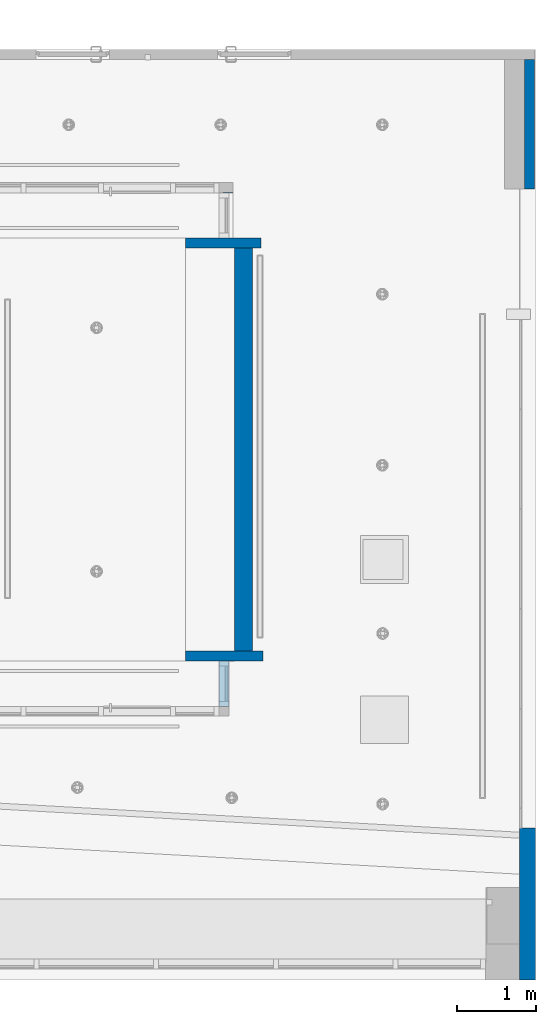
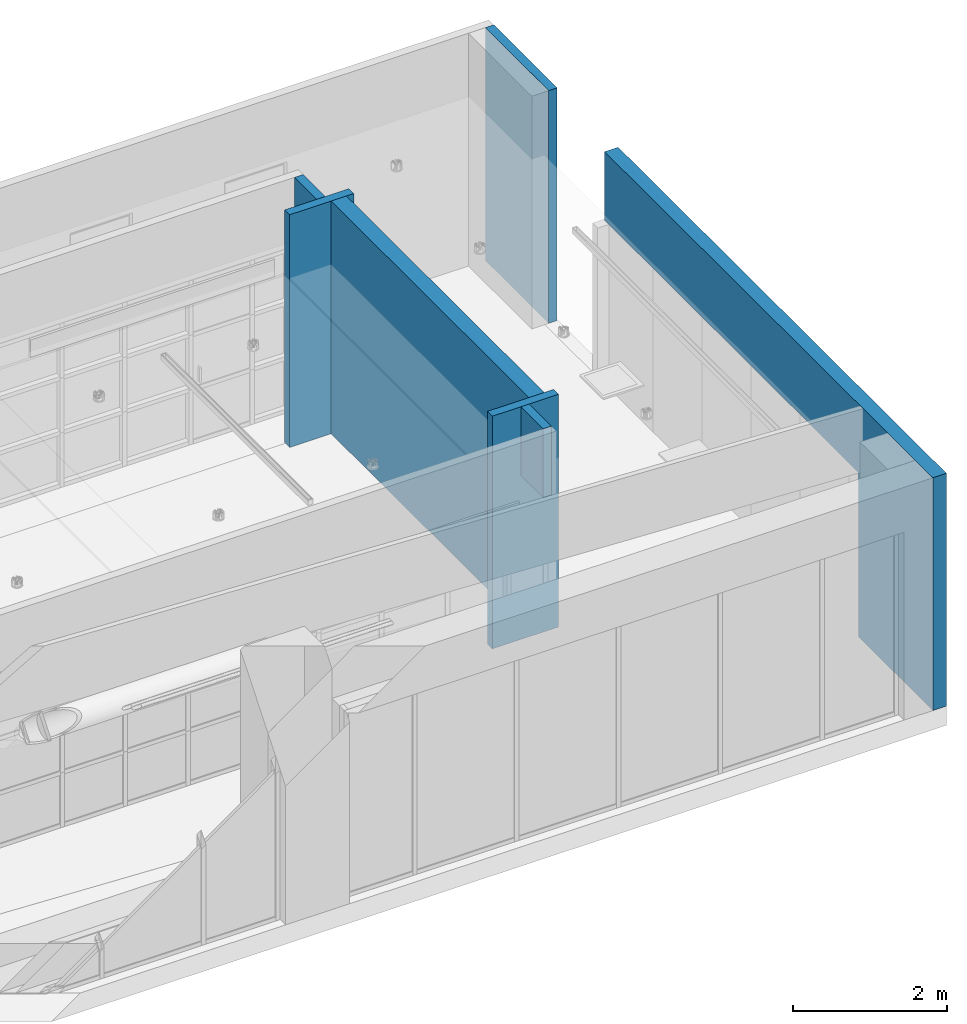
# One storey, part 20 of 108: 7 walls, 3 openings.
"""IFC4 building model written with IfcOpenShell, lengths in feet."""

from ifc_helpers import new_model, entity, si_unit, converted_unit, derived_unit, direction, frame, frame_2d, origin, place, context, subcontext, project, spatial, rectangle, extrude, material, layer, layer_set, layer_usage, type_object, element, save


model = new_model("IFC4")

# Units and contexts
model_context = context("Model", 3, precision=0.0001, world=origin(), true_north=direction((6.12303176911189e-17, 1.0)))
body_context = subcontext(model_context, "Body", "Model", "MODEL_VIEW")
ifc_project = project(units=[converted_unit("LENGTHUNIT", "FOOT", entity("IfcRatioMeasure", 0.3048), si_unit("LENGTHUNIT", "METRE"), dimensions=[1, 0, 0, 0, 0, 0, 0]), converted_unit("AREAUNIT", "SQUARE FOOT", entity("IfcRatioMeasure", 0.09290304), si_unit("AREAUNIT", "SQUARE_METRE"), dimensions=[2, 0, 0, 0, 0, 0, 0]), converted_unit("VOLUMEUNIT", "CUBIC FOOT", entity("IfcRatioMeasure", 0.028316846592), si_unit("VOLUMEUNIT", "CUBIC_METRE"), dimensions=[3, 0, 0, 0, 0, 0, 0]), converted_unit("PLANEANGLEUNIT", "DEGREE", entity("IfcRatioMeasure", 0.0174532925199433), si_unit("PLANEANGLEUNIT", "RADIAN"), dimensions=[0, 0, 0, 0, 0, 0, 0]), si_unit("MASSUNIT", "GRAM", prefix="KILO"), derived_unit("MASSDENSITYUNIT", [(si_unit("MASSUNIT", "GRAM", prefix="KILO"), 1), (si_unit("LENGTHUNIT", "METRE"), -3)]), si_unit("TIMEUNIT", "SECOND"), si_unit("FREQUENCYUNIT", "HERTZ"), si_unit("THERMODYNAMICTEMPERATUREUNIT", "DEGREE_CELSIUS"), derived_unit("THERMALTRANSMITTANCEUNIT", [(si_unit("MASSUNIT", "GRAM", prefix="KILO"), 1), (si_unit("THERMODYNAMICTEMPERATUREUNIT", "KELVIN"), -1), (si_unit("TIMEUNIT", "SECOND"), -3)]), derived_unit("VOLUMETRICFLOWRATEUNIT", [(si_unit("LENGTHUNIT", "METRE"), 3), (si_unit("TIMEUNIT", "SECOND"), -1)]), si_unit("ELECTRICCURRENTUNIT", "AMPERE"), si_unit("ELECTRICVOLTAGEUNIT", "VOLT"), si_unit("POWERUNIT", "WATT"), si_unit("FORCEUNIT", "NEWTON"), si_unit("ILLUMINANCEUNIT", "LUX"), si_unit("LUMINOUSFLUXUNIT", "LUMEN"), si_unit("LUMINOUSINTENSITYUNIT", "CANDELA"), derived_unit("USERDEFINED", [(si_unit("MASSUNIT", "GRAM", prefix="KILO"), -1), (si_unit("LENGTHUNIT", "METRE"), -2), (si_unit("TIMEUNIT", "SECOND"), 3), (si_unit("LUMINOUSFLUXUNIT", "LUMEN"), 1)]), derived_unit("LINEARVELOCITYUNIT", [(si_unit("LENGTHUNIT", "METRE"), 1), (si_unit("TIMEUNIT", "SECOND"), -1)]), si_unit("PRESSUREUNIT", "PASCAL"), derived_unit("USERDEFINED", [(si_unit("LENGTHUNIT", "METRE"), -2), (si_unit("MASSUNIT", "GRAM", prefix="KILO"), 1), (si_unit("TIMEUNIT", "SECOND"), -2)])], contexts=[model_context])

# Site, building, storey
site_placement = place(None, origin())
site = spatial("IfcSite", under=ifc_project, at=site_placement, Name="Default", CompositionType="ELEMENT")
building_placement = place(site_placement, origin())
building = spatial("IfcBuilding", under=site, at=building_placement, CompositionType="ELEMENT")
storey_placement = place(building_placement, frame((0.0, 0.0, 168.0)))
storey = spatial("IfcBuildingStorey", under=building, at=storey_placement, Name="Level 15", CompositionType="ELEMENT", Elevation=168.0)

# Walls
ifc_material = material(Name="Default Wall", Category="Miscellaneous")
ifc_layer_1 = layer(ifc_material, 0.416666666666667, Name="Default Wall", Category="Miscellaneous")
ifc_layer_set_1 = layer_set([ifc_layer_1], Name="Basic Wall:Generic - 5\"")
ifc_layer_usage_1 = layer_usage(ifc_layer_set_1, "AXIS2", "POSITIVE", -0.208333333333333)
wall_type_1 = type_object("IfcWallType", Name="Basic Wall:Generic - 5\"", PredefinedType="NOTDEFINED", material=ifc_layer_set_1)
wall_1_placement = place(storey_placement, frame((61.6296210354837, 15.3174002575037, 0.0), z_axis=(0.0, 0.0, 1.0), x_axis=(0.0, -1.0, 0.0)))
element("IfcWall", 1, at=wall_1_placement, inside=storey, type_object=wall_type_1, material=ifc_layer_usage_1, Name="Basic Wall:Generic - 5\"", ObjectType="Basic Wall:Generic - 5\"", PredefinedType="NOTDEFINED", context=body_context, shape_type="SweptSolid", body=[
    extrude(rectangle(XDim=5.38888076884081, YDim=0.416666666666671, at=frame_2d((2.69444038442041, -1.38777878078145e-16), x_axis=(-1.0, 0.0))), origin(), (0.0, 0.0, 1.0), 12.0833333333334),
])
ifc_layer_usage_2 = layer_usage(ifc_layer_set_1, "AXIS2", "POSITIVE", -0.208333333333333)
wall_2_placement = place(storey_placement, frame((50.4302125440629, 7.67484776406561, 0.0), z_axis=(0.0, 0.0, 1.0), x_axis=(-1.0, 0.0, 0.0)))
element("IfcWall", 2, at=wall_2_placement, inside=storey, type_object=wall_type_1, material=ifc_layer_usage_2, Name="Basic Wall:Generic - 5\"", ObjectType="Basic Wall:Generic - 5\"", PredefinedType="NOTDEFINED", context=body_context, shape_type="SweptSolid", body=[
    extrude(rectangle(XDim=3.15585916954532, YDim=0.416666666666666, at=frame_2d((1.57792958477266, 5.55111512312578e-17), x_axis=(-1.0, 0.0))), origin(), (0.0, 0.0, 1.0), 12.0833333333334),
])
ifc_layer_usage_3 = layer_usage(ifc_layer_set_1, "AXIS2", "NEGATIVE", 0.208333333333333)
wall_3_placement = place(storey_placement, frame((50.5173025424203, -9.56829229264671, 0.0), z_axis=(0.0, 0.0, 1.0), x_axis=(-1.0, 0.0, 0.0)))
element("IfcWall", 3, at=wall_3_placement, inside=storey, type_object=wall_type_1, material=ifc_layer_usage_3, Name="Basic Wall:Generic - 5\"", ObjectType="Basic Wall:Generic - 5\"", PredefinedType="NOTDEFINED", context=body_context, shape_type="SweptSolid", body=[
    extrude(rectangle(XDim=3.24294916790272, YDim=0.416666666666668, at=frame_2d((1.62147458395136, 2.4980018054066e-16), x_axis=(-1.0, 0.0))), origin(), (0.0, 0.0, 1.0), 12.0833333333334),
])

# Wall, opening
ifc_layer_usage_4 = layer_usage(ifc_layer_set_1, "AXIS2", "POSITIVE", -0.208333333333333)
wall_4_placement = place(storey_placement, frame((49.0557559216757, 9.7651444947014, 0.0), z_axis=(0.0, 0.0, 1.0), x_axis=(0.0, -1.0, 0.0)))
wall_4 = element("IfcWall", 4, at=wall_4_placement, inside=storey, type_object=wall_type_1, material=ifc_layer_usage_4, Name="Basic Wall:Generic - 5\"", ObjectType="Basic Wall:Generic - 5\"", PredefinedType="NOTDEFINED", context=body_context, shape_type="SweptSolid", body=[
    extrude(rectangle(XDim=1.88196339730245, YDim=0.416666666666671, at=frame_2d((0.940981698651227, 0.0), x_axis=(-1.0, 0.0))), origin(), (0.0, 0.0, 1.0), 12.0833333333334),
])
opening_1_placement = place(wall_4_placement, frame((1.88196339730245, -0.708333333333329, 0.0)))
element("IfcOpeningElement", 5, at=opening_1_placement, cuts=wall_4, Name="Basic Wall:Generic - 5\"", ObjectType="Opening", PredefinedType="OPENING", context=body_context, shape_type="SweptSolid", body=[
    extrude(rectangle(XDim=8.52282482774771, YDim=1.86913515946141, at=frame_2d((4.44089209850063e-16, 1.4210854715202e-14), x_axis=(0.0, 1.0))), frame((-0.934567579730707, 0.0, 4.26141241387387), z_axis=(0.0, 1.0, 0.0), x_axis=(-1.0, 0.0, 0.0)), (0.0, 0.0, 1.0), 1.41666666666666),
])

ifc_layer_usage_5 = layer_usage(ifc_layer_set_1, "AXIS2", "POSITIVE", -0.208333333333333)
wall_5_placement = place(storey_placement, frame((48.8802019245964, -11.6719370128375, 8.52282482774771), z_axis=(0.0, 0.0, 1.0), x_axis=(0.0, 1.0, 0.0)))
wall_5 = element("IfcWall", 6, at=wall_5_placement, inside=storey, type_object=wall_type_1, material=ifc_layer_usage_5, Name="Basic Wall:Generic - 5\"", ObjectType="Basic Wall:Generic - 5\"", PredefinedType="NOTDEFINED", context=body_context, shape_type="SweptSolid", body=[
    extrude(rectangle(XDim=1.89531138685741, YDim=0.416666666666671, at=frame_2d((0.947655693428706, -7.35522753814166e-16), x_axis=(-1.0, 0.0))), origin(), (0.0, 0.0, 1.0), 3.56050850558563),
])
opening_2_placement = place(wall_5_placement, frame((0.0, 0.708333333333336, -8.52282482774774)))
element("IfcOpeningElement", 7, at=opening_2_placement, cuts=wall_5, Name="Basic Wall:Generic - 5\"", ObjectType="Opening", PredefinedType="OPENING", context=body_context, shape_type="SweptSolid", body=[
    extrude(rectangle(XDim=8.52282482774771, YDim=1.89531138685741, at=frame_2d((0.0, 1.4210854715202e-14), x_axis=(0.0, 1.0))), frame((0.947655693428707, -1.41666666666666, 4.26141241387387), z_axis=(0.0, 1.0, 0.0), x_axis=(-1.0, 0.0, 0.0)), (0.0, 0.0, 1.0), 1.41666666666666),
])

# Wall
ifc_layer_2 = layer(ifc_material, 0.75, Name="Default Wall", Category="Miscellaneous")
ifc_layer_set_2 = layer_set([ifc_layer_2], Name="Basic Wall:Generic - 9'")
ifc_layer_usage_6 = layer_usage(ifc_layer_set_2, "AXIS2", "NEGATIVE", 0.375)
wall_type_2 = type_object("IfcWallType", Name="Basic Wall:Generic - 9'", PredefinedType="NOTDEFINED", material=ifc_layer_set_2)
wall_6_placement = place(storey_placement, frame((49.6905302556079, 7.46651443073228, 0.0), z_axis=(0.0, 0.0, 1.0), x_axis=(0.0, -1.0, 0.0)))
element("IfcWall", 8, at=wall_6_placement, inside=storey, type_object=wall_type_2, material=ifc_layer_usage_6, Name="Basic Wall:Generic - 9'", ObjectType="Basic Wall:Generic - 9'", PredefinedType="NOTDEFINED", context=body_context, shape_type="SweptSolid", body=[
    extrude(rectangle(XDim=16.8264733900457, YDim=0.75, at=frame_2d((8.41323669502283, -1.38777878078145e-16), x_axis=(-1.0, 0.0))), origin(), (0.0, 0.0, 1.0), 12.0833333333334),
])

# Wall, opening
ifc_layer_3 = layer(ifc_material, 0.666666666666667, Name="Default Wall", Category="Miscellaneous")
ifc_layer_set_3 = layer_set([ifc_layer_3], Name="Basic Wall:Generic - 8\"")
ifc_layer_usage_7 = layer_usage(ifc_layer_set_3, "AXIS2", "POSITIVE", -0.333333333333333)
wall_type_3 = type_object("IfcWallType", Name="Basic Wall:Generic - 8\"", PredefinedType="NOTDEFINED", material=ifc_layer_set_3)
wall_7_placement = place(storey_placement, frame((61.5462877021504, 4.81756429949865, 0.0), z_axis=(0.0, 0.0, 1.0), x_axis=(0.0, -1.0, 0.0)))
wall_7 = element("IfcWall", 9, at=wall_7_placement, inside=storey, type_object=wall_type_3, material=ifc_layer_usage_7, Name="Basic Wall:Generic - 8\"", ObjectType="Basic Wall:Generic - 8\"", PredefinedType="NOTDEFINED", context=body_context, shape_type="SweptSolid", body=[
    extrude(rectangle(XDim=27.9166666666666, YDim=0.666666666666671, at=frame_2d((13.9583333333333, -8.32667268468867e-17), x_axis=(-1.0, 0.0))), origin(), (0.0, 0.0, 1.0), 12.0833333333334),
])
opening_3_placement = place(wall_7_placement, frame((21.5780127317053, -0.833333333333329, 0.0)))
element("IfcOpeningElement", 10, at=opening_3_placement, cuts=wall_7, Name="Basic Wall:Generic - 8\"", ObjectType="Opening", PredefinedType="OPENING", context=body_context, shape_type="SweptSolid", body=[
    extrude(rectangle(XDim=8.52282482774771, YDim=21.6613460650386, at=frame_2d((-1.4210854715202e-14, 0.0), x_axis=(1.0, 0.0))), frame((-10.8306730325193, 0.0, 4.2614124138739), z_axis=(0.0, 1.0, 0.0), x_axis=(0.0, 0.0, 1.0)), (0.0, 0.0, 1.0), 1.66666666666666),
])

save(model, "model.ifc")
